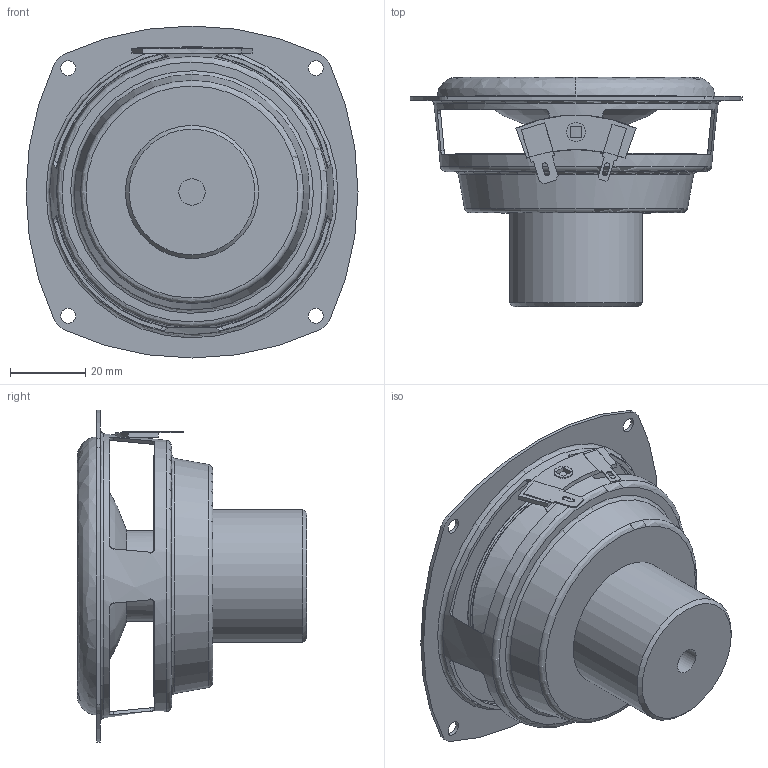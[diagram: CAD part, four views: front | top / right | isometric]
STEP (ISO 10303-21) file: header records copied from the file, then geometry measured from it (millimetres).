
FILE_DESCRIPTION(/* description */ (''),/* implementation_level */ '2;1');
FILE_NAME(/* name */ 'ND90-4 and -8.step',/* time_stamp */ '2026-03-23T17:45:55-04:00',/* author */ (''),/* organization */ (''),/* preprocessor_version */ 'ST-DEVELOPER v20.1',/* originating_system */ 'Autodesk Translation Framework v14.24.0.0',/* authorisation */ '');
FILE_SCHEMA (('AUTOMOTIVE_DESIGN { 1 0 10303 214 3 1 1 }'));
Length unit declared in the file: millimetre
Products named in the file (1): RMW032112A10_ASM
Bounding box: 88.5 x 61.1 x 88.5 mm (x, y, z)
Volume: 43331.8 mm3; surface area: 46833.4 mm2
Topology: 1 solids, 2 shells, 157 faces, 471 edges, 323 vertices
Faces by surface type: plane 73, cylinder 41, bspline 26, cone 9, torus 8
Full cylindrical faces by diameter (mm): 4 x4, 5 x1, 7 x1, 24 x1, 24.2 x1, 35.5 x1, 53 x1, 82 x1
Entity records: 8932 total; most frequent: CARTESIAN_POINT 4853, ORIENTED_EDGE 942, DIRECTION 699, EDGE_CURVE 471, VERTEX_POINT 323, AXIS2_PLACEMENT_3D 267, EDGE_LOOP 207, B_SPLINE_CURVE_WITH_KNOTS 169
